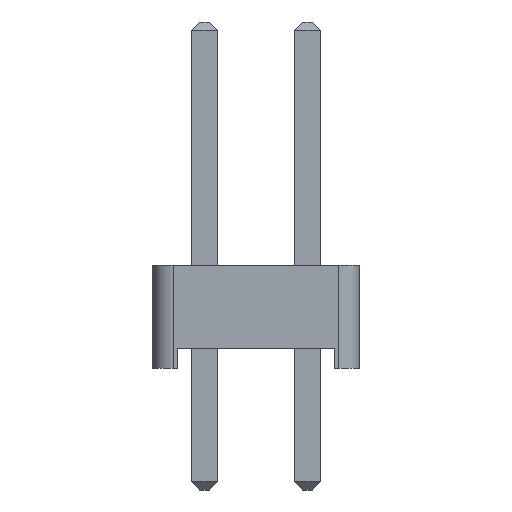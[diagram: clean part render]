
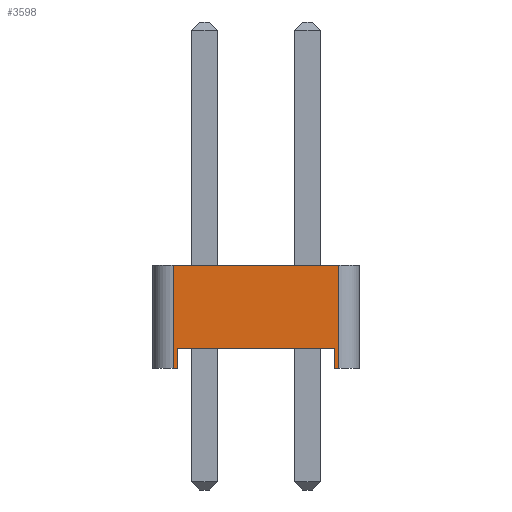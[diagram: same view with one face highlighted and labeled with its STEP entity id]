
A CAD part, left-side view. The second image highlights one B-rep face of the part: STEP entity #3598.
In plain terms, the highlighted planar face has unit normal (-1, 0, 0).
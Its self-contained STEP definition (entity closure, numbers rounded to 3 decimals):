
#3338 = VERTEX_POINT('',#3339);
#3339 = CARTESIAN_POINT('',(-1.27,2.04,0.));
#3347 = PLANE('',#3348);
#3348 = AXIS2_PLACEMENT_3D('',#3349,#3350,#3351);
#3349 = CARTESIAN_POINT('',(0.,0.,0.));
#3350 = DIRECTION('',(-0.,-0.,-1.));
#3351 = DIRECTION('',(-1.,0.,0.));
#3363 = CYLINDRICAL_SURFACE('',#3364,0.5);
#3364 = AXIS2_PLACEMENT_3D('',#3365,#3366,#3367);
#3365 = CARTESIAN_POINT('',(-0.77,2.04,0.));
#3366 = DIRECTION('',(0.,0.,1.));
#3367 = DIRECTION('',(0.,1.,0.));
#3465 = VERTEX_POINT('',#3466);
#3466 = CARTESIAN_POINT('',(-1.27,1.94,0.));
#3480 = PLANE('',#3481);
#3481 = AXIS2_PLACEMENT_3D('',#3482,#3483,#3484);
#3482 = CARTESIAN_POINT('',(1.27,1.94,0.));
#3483 = DIRECTION('',(0.,-1.,0.));
#3484 = DIRECTION('',(-1.,0.,0.));
#3492 = EDGE_CURVE('',#3465,#3338,#3493,.T.);
#3493 = SURFACE_CURVE('',#3494,(#3498,#3505),.PCURVE_S1.);
#3494 = LINE('',#3495,#3496);
#3495 = CARTESIAN_POINT('',(-1.27,-2.54,0.));
#3496 = VECTOR('',#3497,1.);
#3497 = DIRECTION('',(0.,1.,0.));
#3498 = PCURVE('',#3347,#3499);
#3499 = DEFINITIONAL_REPRESENTATION('',(#3500),#3504);
#3500 = LINE('',#3501,#3502);
#3501 = CARTESIAN_POINT('',(1.27,-2.54));
#3502 = VECTOR('',#3503,1.);
#3503 = DIRECTION('',(0.,1.));
#3504 = ( GEOMETRIC_REPRESENTATION_CONTEXT(2) 
PARAMETRIC_REPRESENTATION_CONTEXT() REPRESENTATION_CONTEXT('2D SPACE',''
  ) );
#3505 = PCURVE('',#3506,#3511);
#3506 = PLANE('',#3507);
#3507 = AXIS2_PLACEMENT_3D('',#3508,#3509,#3510);
#3508 = CARTESIAN_POINT('',(-1.27,-2.54,0.));
#3509 = DIRECTION('',(-1.,0.,0.));
#3510 = DIRECTION('',(0.,1.,0.));
#3511 = DEFINITIONAL_REPRESENTATION('',(#3512),#3516);
#3512 = LINE('',#3513,#3514);
#3513 = CARTESIAN_POINT('',(0.,0.));
#3514 = VECTOR('',#3515,1.);
#3515 = DIRECTION('',(1.,0.));
#3516 = ( GEOMETRIC_REPRESENTATION_CONTEXT(2) 
PARAMETRIC_REPRESENTATION_CONTEXT() REPRESENTATION_CONTEXT('2D SPACE',''
  ) );
#3522 = EDGE_CURVE('',#3338,#3523,#3525,.T.);
#3523 = VERTEX_POINT('',#3524);
#3524 = CARTESIAN_POINT('',(-1.27,2.04,2.54));
#3525 = SURFACE_CURVE('',#3526,(#3530,#3537),.PCURVE_S1.);
#3526 = LINE('',#3527,#3528);
#3527 = CARTESIAN_POINT('',(-1.27,2.04,0.));
#3528 = VECTOR('',#3529,1.);
#3529 = DIRECTION('',(0.,0.,1.));
#3530 = PCURVE('',#3363,#3531);
#3531 = DEFINITIONAL_REPRESENTATION('',(#3532),#3536);
#3532 = LINE('',#3533,#3534);
#3533 = CARTESIAN_POINT('',(1.571,0.));
#3534 = VECTOR('',#3535,1.);
#3535 = DIRECTION('',(0.,1.));
#3536 = ( GEOMETRIC_REPRESENTATION_CONTEXT(2) 
PARAMETRIC_REPRESENTATION_CONTEXT() REPRESENTATION_CONTEXT('2D SPACE',''
  ) );
#3537 = PCURVE('',#3506,#3538);
#3538 = DEFINITIONAL_REPRESENTATION('',(#3539),#3543);
#3539 = LINE('',#3540,#3541);
#3540 = CARTESIAN_POINT('',(4.58,0.));
#3541 = VECTOR('',#3542,1.);
#3542 = DIRECTION('',(0.,-1.));
#3543 = ( GEOMETRIC_REPRESENTATION_CONTEXT(2) 
PARAMETRIC_REPRESENTATION_CONTEXT() REPRESENTATION_CONTEXT('2D SPACE',''
  ) );
#3562 = PLANE('',#3563);
#3563 = AXIS2_PLACEMENT_3D('',#3564,#3565,#3566);
#3564 = CARTESIAN_POINT('',(0.,0.,2.54));
#3565 = DIRECTION('',(-0.,-0.,-1.));
#3566 = DIRECTION('',(-1.,0.,0.));
#3598 = ADVANCED_FACE('',(#3599),#3506,.T.);
#3599 = FACE_BOUND('',#3600,.T.);
#3600 = EDGE_LOOP('',(#3601,#3631,#3659,#3680,#3681,#3682,#3705,#3733));
#3601 = ORIENTED_EDGE('',*,*,#3602,.F.);
#3602 = EDGE_CURVE('',#3603,#3605,#3607,.T.);
#3603 = VERTEX_POINT('',#3604);
#3604 = CARTESIAN_POINT('',(-1.27,-2.04,0.));
#3605 = VERTEX_POINT('',#3606);
#3606 = CARTESIAN_POINT('',(-1.27,-1.94,0.));
#3607 = SURFACE_CURVE('',#3608,(#3612,#3619),.PCURVE_S1.);
#3608 = LINE('',#3609,#3610);
#3609 = CARTESIAN_POINT('',(-1.27,-2.54,0.));
#3610 = VECTOR('',#3611,1.);
#3611 = DIRECTION('',(0.,1.,0.));
#3612 = PCURVE('',#3506,#3613);
#3613 = DEFINITIONAL_REPRESENTATION('',(#3614),#3618);
#3614 = LINE('',#3615,#3616);
#3615 = CARTESIAN_POINT('',(0.,0.));
#3616 = VECTOR('',#3617,1.);
#3617 = DIRECTION('',(1.,0.));
#3618 = ( GEOMETRIC_REPRESENTATION_CONTEXT(2) 
PARAMETRIC_REPRESENTATION_CONTEXT() REPRESENTATION_CONTEXT('2D SPACE',''
  ) );
#3619 = PCURVE('',#3620,#3625);
#3620 = PLANE('',#3621);
#3621 = AXIS2_PLACEMENT_3D('',#3622,#3623,#3624);
#3622 = CARTESIAN_POINT('',(0.,0.,0.));
#3623 = DIRECTION('',(-0.,-0.,-1.));
#3624 = DIRECTION('',(-1.,0.,0.));
#3625 = DEFINITIONAL_REPRESENTATION('',(#3626),#3630);
#3626 = LINE('',#3627,#3628);
#3627 = CARTESIAN_POINT('',(1.27,-2.54));
#3628 = VECTOR('',#3629,1.);
#3629 = DIRECTION('',(0.,1.));
#3630 = ( GEOMETRIC_REPRESENTATION_CONTEXT(2) 
PARAMETRIC_REPRESENTATION_CONTEXT() REPRESENTATION_CONTEXT('2D SPACE',''
  ) );
#3631 = ORIENTED_EDGE('',*,*,#3632,.T.);
#3632 = EDGE_CURVE('',#3603,#3633,#3635,.T.);
#3633 = VERTEX_POINT('',#3634);
#3634 = CARTESIAN_POINT('',(-1.27,-2.04,2.54));
#3635 = SURFACE_CURVE('',#3636,(#3640,#3647),.PCURVE_S1.);
#3636 = LINE('',#3637,#3638);
#3637 = CARTESIAN_POINT('',(-1.27,-2.04,0.));
#3638 = VECTOR('',#3639,1.);
#3639 = DIRECTION('',(0.,0.,1.));
#3640 = PCURVE('',#3506,#3641);
#3641 = DEFINITIONAL_REPRESENTATION('',(#3642),#3646);
#3642 = LINE('',#3643,#3644);
#3643 = CARTESIAN_POINT('',(0.5,0.));
#3644 = VECTOR('',#3645,1.);
#3645 = DIRECTION('',(0.,-1.));
#3646 = ( GEOMETRIC_REPRESENTATION_CONTEXT(2) 
PARAMETRIC_REPRESENTATION_CONTEXT() REPRESENTATION_CONTEXT('2D SPACE',''
  ) );
#3647 = PCURVE('',#3648,#3653);
#3648 = CYLINDRICAL_SURFACE('',#3649,0.5);
#3649 = AXIS2_PLACEMENT_3D('',#3650,#3651,#3652);
#3650 = CARTESIAN_POINT('',(-0.77,-2.04,0.));
#3651 = DIRECTION('',(0.,0.,1.));
#3652 = DIRECTION('',(0.,-1.,0.));
#3653 = DEFINITIONAL_REPRESENTATION('',(#3654),#3658);
#3654 = LINE('',#3655,#3656);
#3655 = CARTESIAN_POINT('',(-1.571,0.));
#3656 = VECTOR('',#3657,1.);
#3657 = DIRECTION('',(-0.,1.));
#3658 = ( GEOMETRIC_REPRESENTATION_CONTEXT(2) 
PARAMETRIC_REPRESENTATION_CONTEXT() REPRESENTATION_CONTEXT('2D SPACE',''
  ) );
#3659 = ORIENTED_EDGE('',*,*,#3660,.T.);
#3660 = EDGE_CURVE('',#3633,#3523,#3661,.T.);
#3661 = SURFACE_CURVE('',#3662,(#3666,#3673),.PCURVE_S1.);
#3662 = LINE('',#3663,#3664);
#3663 = CARTESIAN_POINT('',(-1.27,-2.54,2.54));
#3664 = VECTOR('',#3665,1.);
#3665 = DIRECTION('',(0.,1.,0.));
#3666 = PCURVE('',#3506,#3667);
#3667 = DEFINITIONAL_REPRESENTATION('',(#3668),#3672);
#3668 = LINE('',#3669,#3670);
#3669 = CARTESIAN_POINT('',(0.,-2.54));
#3670 = VECTOR('',#3671,1.);
#3671 = DIRECTION('',(1.,0.));
#3672 = ( GEOMETRIC_REPRESENTATION_CONTEXT(2) 
PARAMETRIC_REPRESENTATION_CONTEXT() REPRESENTATION_CONTEXT('2D SPACE',''
  ) );
#3673 = PCURVE('',#3562,#3674);
#3674 = DEFINITIONAL_REPRESENTATION('',(#3675),#3679);
#3675 = LINE('',#3676,#3677);
#3676 = CARTESIAN_POINT('',(1.27,-2.54));
#3677 = VECTOR('',#3678,1.);
#3678 = DIRECTION('',(0.,1.));
#3679 = ( GEOMETRIC_REPRESENTATION_CONTEXT(2) 
PARAMETRIC_REPRESENTATION_CONTEXT() REPRESENTATION_CONTEXT('2D SPACE',''
  ) );
#3680 = ORIENTED_EDGE('',*,*,#3522,.F.);
#3681 = ORIENTED_EDGE('',*,*,#3492,.F.);
#3682 = ORIENTED_EDGE('',*,*,#3683,.T.);
#3683 = EDGE_CURVE('',#3465,#3684,#3686,.T.);
#3684 = VERTEX_POINT('',#3685);
#3685 = CARTESIAN_POINT('',(-1.27,1.94,0.5));
#3686 = SURFACE_CURVE('',#3687,(#3691,#3698),.PCURVE_S1.);
#3687 = LINE('',#3688,#3689);
#3688 = CARTESIAN_POINT('',(-1.27,1.94,0.));
#3689 = VECTOR('',#3690,1.);
#3690 = DIRECTION('',(0.,0.,1.));
#3691 = PCURVE('',#3506,#3692);
#3692 = DEFINITIONAL_REPRESENTATION('',(#3693),#3697);
#3693 = LINE('',#3694,#3695);
#3694 = CARTESIAN_POINT('',(4.48,0.));
#3695 = VECTOR('',#3696,1.);
#3696 = DIRECTION('',(0.,-1.));
#3697 = ( GEOMETRIC_REPRESENTATION_CONTEXT(2) 
PARAMETRIC_REPRESENTATION_CONTEXT() REPRESENTATION_CONTEXT('2D SPACE',''
  ) );
#3698 = PCURVE('',#3480,#3699);
#3699 = DEFINITIONAL_REPRESENTATION('',(#3700),#3704);
#3700 = LINE('',#3701,#3702);
#3701 = CARTESIAN_POINT('',(2.54,0.));
#3702 = VECTOR('',#3703,1.);
#3703 = DIRECTION('',(0.,-1.));
#3704 = ( GEOMETRIC_REPRESENTATION_CONTEXT(2) 
PARAMETRIC_REPRESENTATION_CONTEXT() REPRESENTATION_CONTEXT('2D SPACE',''
  ) );
#3705 = ORIENTED_EDGE('',*,*,#3706,.T.);
#3706 = EDGE_CURVE('',#3684,#3707,#3709,.T.);
#3707 = VERTEX_POINT('',#3708);
#3708 = CARTESIAN_POINT('',(-1.27,-1.94,0.5));
#3709 = SURFACE_CURVE('',#3710,(#3714,#3721),.PCURVE_S1.);
#3710 = LINE('',#3711,#3712);
#3711 = CARTESIAN_POINT('',(-1.27,1.94,0.5));
#3712 = VECTOR('',#3713,1.);
#3713 = DIRECTION('',(0.,-1.,0.));
#3714 = PCURVE('',#3506,#3715);
#3715 = DEFINITIONAL_REPRESENTATION('',(#3716),#3720);
#3716 = LINE('',#3717,#3718);
#3717 = CARTESIAN_POINT('',(4.48,-0.5));
#3718 = VECTOR('',#3719,1.);
#3719 = DIRECTION('',(-1.,0.));
#3720 = ( GEOMETRIC_REPRESENTATION_CONTEXT(2) 
PARAMETRIC_REPRESENTATION_CONTEXT() REPRESENTATION_CONTEXT('2D SPACE',''
  ) );
#3721 = PCURVE('',#3722,#3727);
#3722 = PLANE('',#3723);
#3723 = AXIS2_PLACEMENT_3D('',#3724,#3725,#3726);
#3724 = CARTESIAN_POINT('',(0.,0.,0.5));
#3725 = DIRECTION('',(0.,0.,1.));
#3726 = DIRECTION('',(1.,0.,0.));
#3727 = DEFINITIONAL_REPRESENTATION('',(#3728),#3732);
#3728 = LINE('',#3729,#3730);
#3729 = CARTESIAN_POINT('',(-1.27,1.94));
#3730 = VECTOR('',#3731,1.);
#3731 = DIRECTION('',(0.,-1.));
#3732 = ( GEOMETRIC_REPRESENTATION_CONTEXT(2) 
PARAMETRIC_REPRESENTATION_CONTEXT() REPRESENTATION_CONTEXT('2D SPACE',''
  ) );
#3733 = ORIENTED_EDGE('',*,*,#3734,.F.);
#3734 = EDGE_CURVE('',#3605,#3707,#3735,.T.);
#3735 = SURFACE_CURVE('',#3736,(#3740,#3747),.PCURVE_S1.);
#3736 = LINE('',#3737,#3738);
#3737 = CARTESIAN_POINT('',(-1.27,-1.94,0.));
#3738 = VECTOR('',#3739,1.);
#3739 = DIRECTION('',(0.,0.,1.));
#3740 = PCURVE('',#3506,#3741);
#3741 = DEFINITIONAL_REPRESENTATION('',(#3742),#3746);
#3742 = LINE('',#3743,#3744);
#3743 = CARTESIAN_POINT('',(0.6,0.));
#3744 = VECTOR('',#3745,1.);
#3745 = DIRECTION('',(0.,-1.));
#3746 = ( GEOMETRIC_REPRESENTATION_CONTEXT(2) 
PARAMETRIC_REPRESENTATION_CONTEXT() REPRESENTATION_CONTEXT('2D SPACE',''
  ) );
#3747 = PCURVE('',#3748,#3753);
#3748 = PLANE('',#3749);
#3749 = AXIS2_PLACEMENT_3D('',#3750,#3751,#3752);
#3750 = CARTESIAN_POINT('',(-1.27,-1.94,0.));
#3751 = DIRECTION('',(0.,1.,0.));
#3752 = DIRECTION('',(1.,0.,0.));
#3753 = DEFINITIONAL_REPRESENTATION('',(#3754),#3758);
#3754 = LINE('',#3755,#3756);
#3755 = CARTESIAN_POINT('',(0.,0.));
#3756 = VECTOR('',#3757,1.);
#3757 = DIRECTION('',(0.,-1.));
#3758 = ( GEOMETRIC_REPRESENTATION_CONTEXT(2) 
PARAMETRIC_REPRESENTATION_CONTEXT() REPRESENTATION_CONTEXT('2D SPACE',''
  ) );
